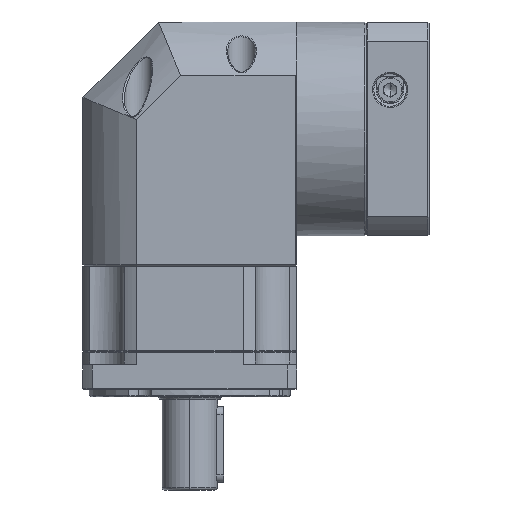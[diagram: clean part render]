
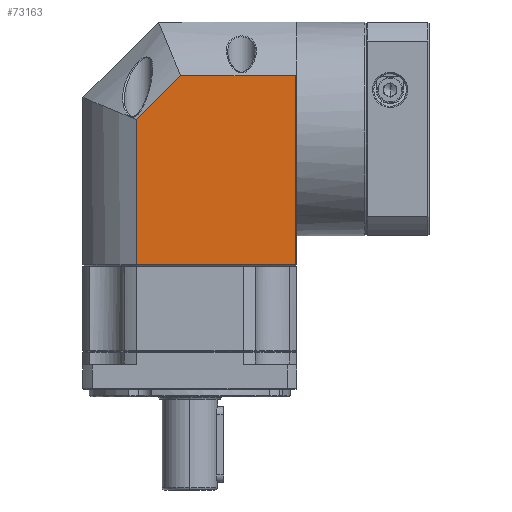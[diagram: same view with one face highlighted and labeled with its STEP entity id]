
A CAD part, front view. The second image highlights one B-rep face of the part: STEP entity #73163.
In plain terms, the highlighted planar face has unit normal (0, -1, 0).
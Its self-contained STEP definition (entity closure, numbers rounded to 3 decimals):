
#943 = CARTESIAN_POINT ( 'NONE',  ( 47.032, 113.508, 58.635 ) ) ;
#1018 = CARTESIAN_POINT ( 'NONE',  ( -16.181, 113.508, 19.818 ) ) ;
#10456 = CARTESIAN_POINT ( 'NONE',  ( 47.532, 113.508, 58.635 ) ) ;
#14653 = DIRECTION ( 'NONE',  ( 0., 0., -1. ) ) ;
#16042 = EDGE_CURVE ( 'NONE', #66844, #102127, #121193, .T. ) ;
#23163 = CARTESIAN_POINT ( 'NONE',  ( 47.032, 113.508, 37.348 ) ) ;
#24072 = DIRECTION ( 'NONE',  ( -1., 0., 0. ) ) ;
#24137 = CARTESIAN_POINT ( 'NONE',  ( 47.532, 113.508, -37.865 ) ) ;
#32850 = AXIS2_PLACEMENT_3D ( 'NONE', #10456, #105029, #24072 ) ;
#35561 = EDGE_LOOP ( 'NONE', ( #147906, #39602, #86299, #174026, #138533 ) ) ;
#39602 = ORIENTED_EDGE ( 'NONE', *, *, #81010, .F. ) ;
#47979 = CARTESIAN_POINT ( 'NONE',  ( -16.181, 113.508, 58.635 ) ) ;
#50413 = CARTESIAN_POINT ( 'NONE',  ( 47.532, 113.508, 37.348 ) ) ;
#55578 = VERTEX_POINT ( 'NONE', #129014 ) ;
#56400 = CARTESIAN_POINT ( 'NONE',  ( 47.032, 113.508, -37.865 ) ) ;
#56632 = VECTOR ( 'NONE', #78465, 1000. ) ;
#59065 = CARTESIAN_POINT ( 'NONE',  ( -16.181, 113.508, -37.865 ) ) ;
#66844 = VERTEX_POINT ( 'NONE', #59065 ) ;
#73163 = ADVANCED_FACE ( 'NONE', ( #165858 ), #118108, .F. ) ;
#77813 = LINE ( 'NONE', #943, #145591 ) ;
#78447 = DIRECTION ( 'NONE',  ( 1., 0., 0. ) ) ;
#78465 = DIRECTION ( 'NONE',  ( 0.707, 0., 0.707 ) ) ;
#81010 = EDGE_CURVE ( 'NONE', #127902, #102127, #77813, .T. ) ;
#85110 = VECTOR ( 'NONE', #78447, 1000. ) ;
#86299 = ORIENTED_EDGE ( 'NONE', *, *, #143470, .F. ) ;
#88411 = LINE ( 'NONE', #47979, #160451 ) ;
#91521 = VECTOR ( 'NONE', #131458, 1000. ) ;
#95743 = LINE ( 'NONE', #50413, #91521 ) ;
#102127 = VERTEX_POINT ( 'NONE', #56400 ) ;
#105029 = DIRECTION ( 'NONE',  ( 0., 1., 0. ) ) ;
#118108 = PLANE ( 'NONE',  #32850 ) ;
#121193 = LINE ( 'NONE', #24137, #85110 ) ;
#127902 = VERTEX_POINT ( 'NONE', #23163 ) ;
#129014 = CARTESIAN_POINT ( 'NONE',  ( 1.349, 113.508, 37.348 ) ) ;
#131458 = DIRECTION ( 'NONE',  ( 1., 0., 0. ) ) ;
#138193 = VERTEX_POINT ( 'NONE', #1018 ) ;
#138533 = ORIENTED_EDGE ( 'NONE', *, *, #174892, .F. ) ;
#141990 = DIRECTION ( 'NONE',  ( 0., 0., 1. ) ) ;
#143470 = EDGE_CURVE ( 'NONE', #55578, #127902, #95743, .T. ) ;
#145591 = VECTOR ( 'NONE', #14653, 1000. ) ;
#146535 = CARTESIAN_POINT ( 'NONE',  ( -16.181, 113.508, 19.818 ) ) ;
#147906 = ORIENTED_EDGE ( 'NONE', *, *, #16042, .T. ) ;
#148347 = EDGE_CURVE ( 'NONE', #138193, #55578, #160333, .T. ) ;
#160333 = LINE ( 'NONE', #146535, #56632 ) ;
#160451 = VECTOR ( 'NONE', #141990, 1000. ) ;
#165858 = FACE_OUTER_BOUND ( 'NONE', #35561, .T. ) ;
#174026 = ORIENTED_EDGE ( 'NONE', *, *, #148347, .F. ) ;
#174892 = EDGE_CURVE ( 'NONE', #66844, #138193, #88411, .T. ) ;
